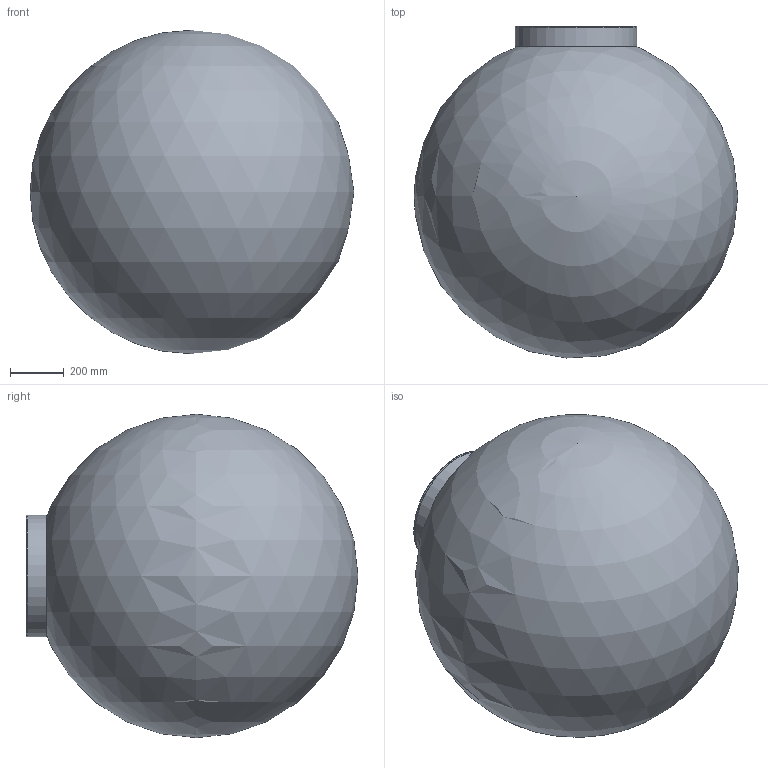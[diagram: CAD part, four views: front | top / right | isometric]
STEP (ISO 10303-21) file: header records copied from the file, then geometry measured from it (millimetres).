
FILE_DESCRIPTION(/* description */ (''),/* implementation_level */ '2;1');
FILE_NAME(/* name */ 'MOON 120 F.stp',/* time_stamp */ '2024-02-13T17:44:32+01:00',/* author */ ('n.bisotti'),/* organization */ (''),/* preprocessor_version */ 'ST-DEVELOPER v19.2',/* originating_system */ 'Autodesk Inventor 2023',/* authorisation */ '');
FILE_SCHEMA (('AUTOMOTIVE_DESIGN { 1 0 10303 214 3 1 1 }'));
Length unit declared in the file: centimetre
Products named in the file (1): Parte2
Bounding box: 1200 x 1231.23 x 1200 mm (x, y, z)
Volume: 32279292.1 mm3; surface area: 9485492.8 mm2
Topology: 3 solids, 4 shells, 12 faces, 21 edges, 14 vertices
Faces by surface type: plane 5, cylinder 4, sphere 2, torus 1
Full cylindrical faces by diameter (mm): 164 x1, 447 x2, 450 x1
Entity records: 345 total; most frequent: DIRECTION 56, CARTESIAN_POINT 44, ORIENTED_EDGE 34, AXIS2_PLACEMENT_3D 26, EDGE_CURVE 17, EDGE_LOOP 15, STYLED_ITEM 15, VERTEX_POINT 14
